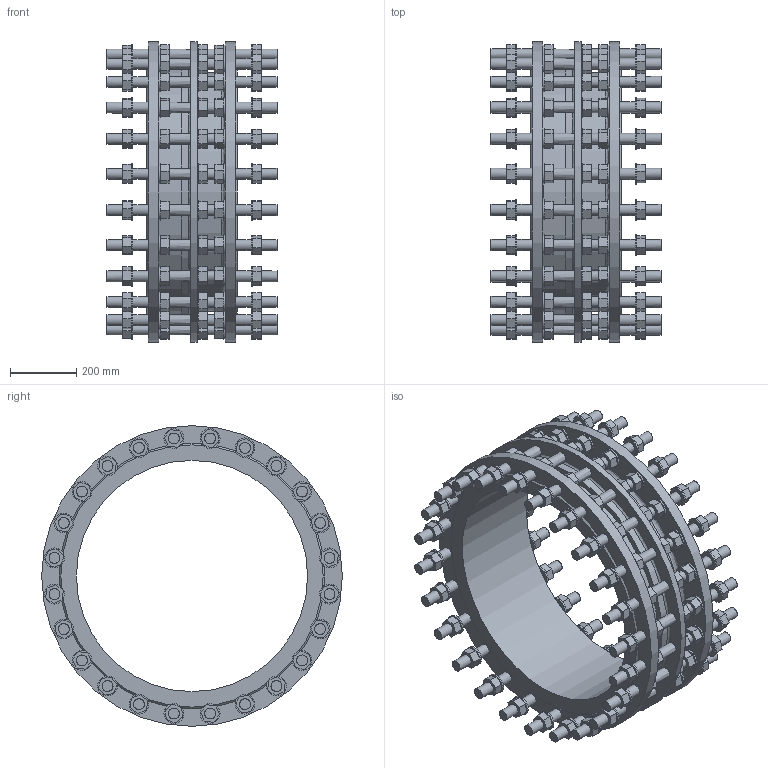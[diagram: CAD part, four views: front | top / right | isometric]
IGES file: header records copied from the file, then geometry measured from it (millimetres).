
Start section: SolidWorks IGES file using analytic representation for surfaces
Global section: file name: \\avksan2\techshare\PBM outline export from Enovia\O_265_910_DN700_1XXXXX00_L=275_REV01.igs; native system: SolidWorks 2022; preprocessor: SolidWorks 2022; author: pbm; date: 241011.124522; units: millimetre
Bounding box: 515 x 910 x 910 mm (x, y, z)
Surface area: 4097853 mm2 (no closed solid volume)
Topology: 0 solids, 0 shells, 1381 faces, 6200 edges, 5925 vertices
Faces by surface type: bspline 1104, revolution 277
